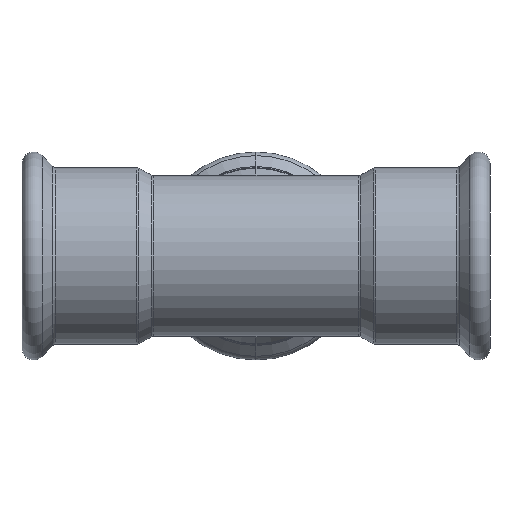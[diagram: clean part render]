
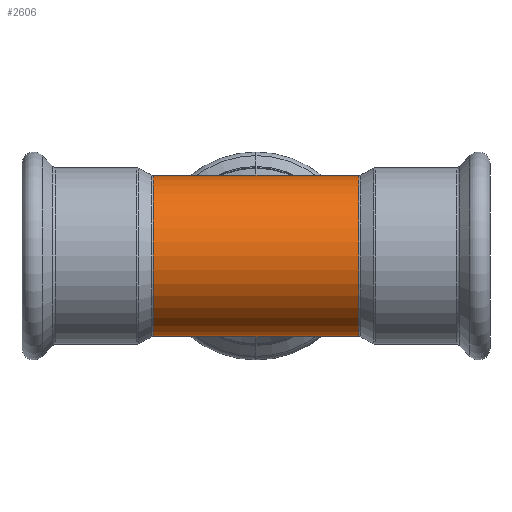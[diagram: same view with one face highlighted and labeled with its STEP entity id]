
A CAD part, front view. The second image highlights one B-rep face of the part: STEP entity #2606.
In plain terms, the highlighted cylindrical face has radius 20.65 mm (diameter 41.3 mm), a partial arc.
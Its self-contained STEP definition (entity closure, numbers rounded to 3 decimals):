
#182 = DIRECTION ( 'NONE',  ( 0., 0., 1. ) ) ;
#218 = ORIENTED_EDGE ( 'NONE', *, *, #1805, .T. ) ;
#272 = VERTEX_POINT ( 'NONE', #1439 ) ;
#326 = VERTEX_POINT ( 'NONE', #912 ) ;
#446 = EDGE_LOOP ( 'NONE', ( #3208, #218, #566, #1765, #1894, #1513 ) ) ;
#484 = LINE ( 'NONE', #2168, #3756 ) ;
#506 = LINE ( 'NONE', #4027, #642 ) ;
#532 = CYLINDRICAL_SURFACE ( 'NONE', #1679, 20.65 ) ;
#566 = ORIENTED_EDGE ( 'NONE', *, *, #2815, .T. ) ;
#625 = DIRECTION ( 'NONE',  ( 0., 0., 1. ) ) ;
#642 = VECTOR ( 'NONE', #1542, 1000. ) ;
#750 = CIRCLE ( 'NONE', #3136, 20.65 ) ;
#807 = DIRECTION ( 'NONE',  ( -1., 0., 0. ) ) ;
#811 = DIRECTION ( 'NONE',  ( -1., 0., 0. ) ) ;
#831 = DIRECTION ( 'NONE',  ( -1., 0., 0. ) ) ;
#912 = CARTESIAN_POINT ( 'NONE',  ( 26.377, 0., 20.65 ) ) ;
#1137 = CARTESIAN_POINT ( 'NONE',  ( -26.377, 0., 0. ) ) ;
#1303 = CIRCLE ( 'NONE', #4185, 20.65 ) ;
#1366 = VERTEX_POINT ( 'NONE', #3569 ) ;
#1421 = LINE ( 'NONE', #1783, #2005 ) ;
#1439 = CARTESIAN_POINT ( 'NONE',  ( 0., 0., -20.65 ) ) ;
#1513 = ORIENTED_EDGE ( 'NONE', *, *, #3365, .F. ) ;
#1542 = DIRECTION ( 'NONE',  ( -1., 0., 0. ) ) ;
#1679 = AXIS2_PLACEMENT_3D ( 'NONE', #3712, #811, #182 ) ;
#1688 = VECTOR ( 'NONE', #3042, 1000. ) ;
#1695 = CARTESIAN_POINT ( 'NONE',  ( 26.377, 0., -20.65 ) ) ;
#1765 = ORIENTED_EDGE ( 'NONE', *, *, #2557, .T. ) ;
#1769 = EDGE_CURVE ( 'NONE', #2369, #3583, #750, .T. ) ;
#1783 = CARTESIAN_POINT ( 'NONE',  ( 0., 0., 20.65 ) ) ;
#1805 = EDGE_CURVE ( 'NONE', #3340, #326, #1303, .T. ) ;
#1894 = ORIENTED_EDGE ( 'NONE', *, *, #1769, .T. ) ;
#2005 = VECTOR ( 'NONE', #807, 1000. ) ;
#2040 = DIRECTION ( 'NONE',  ( 1., 0., 0. ) ) ;
#2168 = CARTESIAN_POINT ( 'NONE',  ( 0., 0., -20.65 ) ) ;
#2268 = CARTESIAN_POINT ( 'NONE',  ( -26.377, 0., 20.65 ) ) ;
#2369 = VERTEX_POINT ( 'NONE', #2268 ) ;
#2377 = CARTESIAN_POINT ( 'NONE',  ( 0., 0., -20.65 ) ) ;
#2509 = EDGE_CURVE ( 'NONE', #3340, #272, #484, .T. ) ;
#2557 = EDGE_CURVE ( 'NONE', #1366, #2369, #506, .T. ) ;
#2603 = DIRECTION ( 'NONE',  ( -1., 0., 0. ) ) ;
#2606 = ADVANCED_FACE ( 'NONE', ( #4091 ), #532, .T. ) ;
#2815 = EDGE_CURVE ( 'NONE', #326, #1366, #1421, .T. ) ;
#3042 = DIRECTION ( 'NONE',  ( -1., 0., 0. ) ) ;
#3068 = LINE ( 'NONE', #2377, #1688 ) ;
#3092 = CARTESIAN_POINT ( 'NONE',  ( 26.377, 0., 0. ) ) ;
#3136 = AXIS2_PLACEMENT_3D ( 'NONE', #1137, #2040, #4058 ) ;
#3208 = ORIENTED_EDGE ( 'NONE', *, *, #2509, .F. ) ;
#3340 = VERTEX_POINT ( 'NONE', #1695 ) ;
#3365 = EDGE_CURVE ( 'NONE', #272, #3583, #3068, .T. ) ;
#3569 = CARTESIAN_POINT ( 'NONE',  ( 0., 0., 20.65 ) ) ;
#3583 = VERTEX_POINT ( 'NONE', #3850 ) ;
#3712 = CARTESIAN_POINT ( 'NONE',  ( 0., 0., 0. ) ) ;
#3756 = VECTOR ( 'NONE', #831, 1000. ) ;
#3850 = CARTESIAN_POINT ( 'NONE',  ( -26.377, 0., -20.65 ) ) ;
#4027 = CARTESIAN_POINT ( 'NONE',  ( 0., 0., 20.65 ) ) ;
#4058 = DIRECTION ( 'NONE',  ( 0., 0., 1. ) ) ;
#4091 = FACE_OUTER_BOUND ( 'NONE', #446, .T. ) ;
#4185 = AXIS2_PLACEMENT_3D ( 'NONE', #3092, #2603, #625 ) ;
